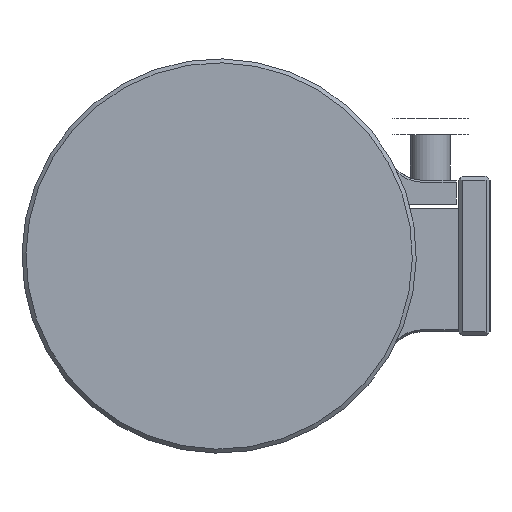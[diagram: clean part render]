
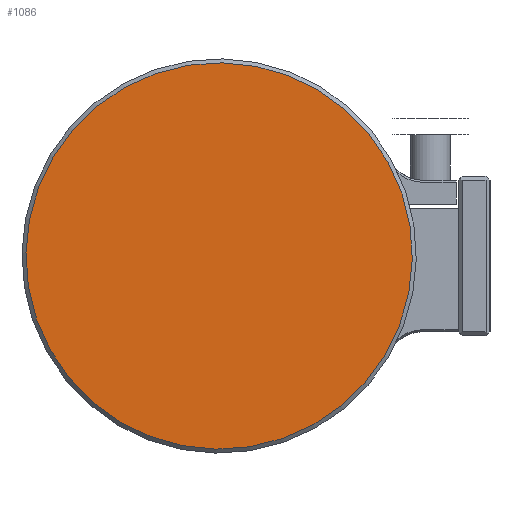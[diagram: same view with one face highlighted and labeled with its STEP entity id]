
A CAD part, left-side view. The second image highlights one B-rep face of the part: STEP entity #1086.
In plain terms, the highlighted planar face has unit normal (-1, 0, 0).
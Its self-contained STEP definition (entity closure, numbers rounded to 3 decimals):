
#1046=CARTESIAN_POINT('',(-60.106,-20.865,-48.493));
#1047=VERTEX_POINT('',#1046);
#1048=CARTESIAN_POINT('',(-60.106,-21.681,0.));
#1049=DIRECTION('',(1.,0.,0.));
#1050=DIRECTION('',(0.,0.017,-1.));
#1051=AXIS2_PLACEMENT_3D('',#1048,#1049,#1050);
#1052=CIRCLE('',#1051,48.5);
#1053=EDGE_CURVE('',#1047,#1047,#1052,.T.);
#1078=CARTESIAN_POINT('',(-60.106,-20.878,-47.723));
#1079=DIRECTION('',(-1.0,0.0,0.0));
#1080=DIRECTION('',(0.0,1.,0.017));
#1081=AXIS2_PLACEMENT_3D('',#1078,#1079,#1080);
#1082=PLANE('',#1081);
#1083=ORIENTED_EDGE('',*,*,#1053,.F.);
#1084=EDGE_LOOP('',(#1083));
#1085=FACE_OUTER_BOUND('',#1084,.T.);
#1086=ADVANCED_FACE('',(#1085),#1082,.T.);
